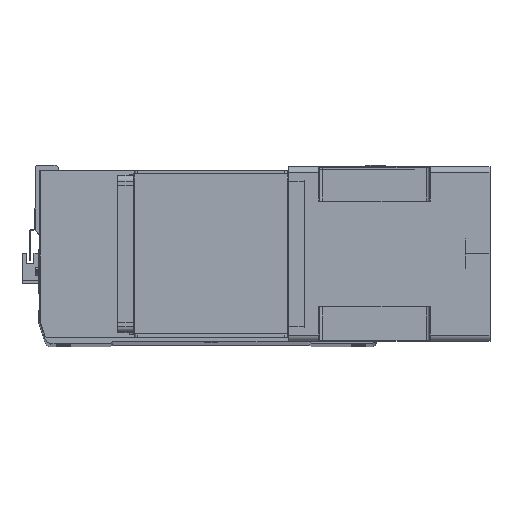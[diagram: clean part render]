
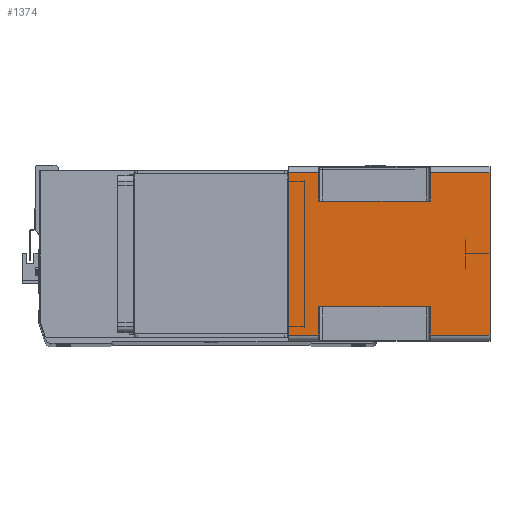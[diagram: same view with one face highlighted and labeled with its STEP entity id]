
A CAD part, top view. The second image highlights one B-rep face of the part: STEP entity #1374.
In plain terms, the highlighted planar face has unit normal (0, 0, 1) as drawn and (1, 0, 0) by its records, which use the part's own axes.
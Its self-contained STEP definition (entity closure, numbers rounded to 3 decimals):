
#219 = VECTOR ( 'NONE', #14504, 1000. ) ;
#514 = LINE ( 'NONE', #6479, #2427 ) ;
#554 = CARTESIAN_POINT ( 'NONE',  ( 71., 66., -115.5 ) ) ;
#568 = CARTESIAN_POINT ( 'NONE',  ( 71., -66., 0. ) ) ;
#640 = ORIENTED_EDGE ( 'NONE', *, *, #31211, .T. ) ;
#647 = VECTOR ( 'NONE', #27772, 1000. ) ;
#749 = DIRECTION ( 'NONE',  ( 1., 0., 0. ) ) ;
#1066 = CARTESIAN_POINT ( 'NONE',  ( 71., -66., -164. ) ) ;
#1374 = ADVANCED_FACE ( 'NONE', ( #1802 ), #30007, .T. ) ;
#1394 = EDGE_CURVE ( 'NONE', #24808, #25547, #7137, .T. ) ;
#1802 = FACE_OUTER_BOUND ( 'NONE', #11090, .T. ) ;
#2427 = VECTOR ( 'NONE', #11231, 1000. ) ;
#2580 = AXIS2_PLACEMENT_3D ( 'NONE', #1066, #749, #17775 ) ;
#2624 = ORIENTED_EDGE ( 'NONE', *, *, #27785, .F. ) ;
#2932 = DIRECTION ( 'NONE',  ( 0., 1., 0. ) ) ;
#3017 = CARTESIAN_POINT ( 'NONE',  ( 71., 43., -164. ) ) ;
#3168 = ORIENTED_EDGE ( 'NONE', *, *, #17672, .T. ) ;
#3541 = CARTESIAN_POINT ( 'NONE',  ( 71., -66., -164. ) ) ;
#3910 = DIRECTION ( 'NONE',  ( 0., -1., 0. ) ) ;
#4314 = CARTESIAN_POINT ( 'NONE',  ( 71., 43., -24.5 ) ) ;
#4448 = VECTOR ( 'NONE', #25032, 1000. ) ;
#4656 = DIRECTION ( 'NONE',  ( 0., -1., 0. ) ) ;
#4720 = CARTESIAN_POINT ( 'NONE',  ( 71., 66., -164. ) ) ;
#5953 = ORIENTED_EDGE ( 'NONE', *, *, #30903, .F. ) ;
#6312 = VECTOR ( 'NONE', #9574, 1000. ) ;
#6479 = CARTESIAN_POINT ( 'NONE',  ( 71., -66., -164. ) ) ;
#6521 = VECTOR ( 'NONE', #9499, 1000. ) ;
#6761 = VERTEX_POINT ( 'NONE', #16049 ) ;
#7137 = LINE ( 'NONE', #8075, #647 ) ;
#8075 = CARTESIAN_POINT ( 'NONE',  ( 71., 66., -164. ) ) ;
#8633 = VERTEX_POINT ( 'NONE', #4314 ) ;
#9272 = DIRECTION ( 'NONE',  ( 0., 1., 0. ) ) ;
#9398 = CARTESIAN_POINT ( 'NONE',  ( 71., -43., -164. ) ) ;
#9499 = DIRECTION ( 'NONE',  ( 0., 0., 1. ) ) ;
#9574 = DIRECTION ( 'NONE',  ( 0., 0., 1. ) ) ;
#9728 = CARTESIAN_POINT ( 'NONE',  ( 71., 66., 0. ) ) ;
#9805 = VERTEX_POINT ( 'NONE', #18623 ) ;
#10018 = VERTEX_POINT ( 'NONE', #9728 ) ;
#10353 = DIRECTION ( 'NONE',  ( 0., 1., 0. ) ) ;
#10623 = VECTOR ( 'NONE', #10353, 1000. ) ;
#10630 = LINE ( 'NONE', #12138, #24353 ) ;
#10813 = ORIENTED_EDGE ( 'NONE', *, *, #14328, .T. ) ;
#11090 = EDGE_LOOP ( 'NONE', ( #5953, #26440, #23556, #10813, #25097, #18504, #2624, #3168, #640, #16480, #11238, #15731 ) ) ;
#11231 = DIRECTION ( 'NONE',  ( 0., 0., 1. ) ) ;
#11238 = ORIENTED_EDGE ( 'NONE', *, *, #18830, .F. ) ;
#12138 = CARTESIAN_POINT ( 'NONE',  ( 71., -66., -24.5 ) ) ;
#12212 = CARTESIAN_POINT ( 'NONE',  ( 71., -66., -24.5 ) ) ;
#12379 = CARTESIAN_POINT ( 'NONE',  ( 71., 66., -164. ) ) ;
#12461 = EDGE_CURVE ( 'NONE', #18257, #9805, #13685, .T. ) ;
#12520 = VERTEX_POINT ( 'NONE', #20576 ) ;
#12763 = LINE ( 'NONE', #4720, #6312 ) ;
#13040 = VERTEX_POINT ( 'NONE', #25105 ) ;
#13294 = VERTEX_POINT ( 'NONE', #28834 ) ;
#13685 = LINE ( 'NONE', #15367, #10623 ) ;
#14270 = LINE ( 'NONE', #568, #24173 ) ;
#14328 = EDGE_CURVE ( 'NONE', #18099, #24808, #17341, .T. ) ;
#14480 = EDGE_CURVE ( 'NONE', #14725, #10018, #14270, .T. ) ;
#14504 = DIRECTION ( 'NONE',  ( 0., 1., 0. ) ) ;
#14619 = VECTOR ( 'NONE', #3910, 1000. ) ;
#14688 = VECTOR ( 'NONE', #4656, 1000. ) ;
#14725 = VERTEX_POINT ( 'NONE', #28439 ) ;
#15367 = CARTESIAN_POINT ( 'NONE',  ( 71., -43., -24.5 ) ) ;
#15731 = ORIENTED_EDGE ( 'NONE', *, *, #12461, .T. ) ;
#15780 = LINE ( 'NONE', #18461, #14619 ) ;
#16049 = CARTESIAN_POINT ( 'NONE',  ( 71., -43., -115.5 ) ) ;
#16480 = ORIENTED_EDGE ( 'NONE', *, *, #14480, .F. ) ;
#17341 = LINE ( 'NONE', #28995, #219 ) ;
#17672 = EDGE_CURVE ( 'NONE', #8633, #12520, #10630, .T. ) ;
#17775 = DIRECTION ( 'NONE',  ( 0., 1., 0. ) ) ;
#18099 = VERTEX_POINT ( 'NONE', #3541 ) ;
#18257 = VERTEX_POINT ( 'NONE', #12212 ) ;
#18461 = CARTESIAN_POINT ( 'NONE',  ( 71., 43., -115.5 ) ) ;
#18504 = ORIENTED_EDGE ( 'NONE', *, *, #29131, .T. ) ;
#18623 = CARTESIAN_POINT ( 'NONE',  ( 71., -43., -24.5 ) ) ;
#18830 = EDGE_CURVE ( 'NONE', #18257, #14725, #18904, .T. ) ;
#18904 = LINE ( 'NONE', #22357, #4448 ) ;
#20576 = CARTESIAN_POINT ( 'NONE',  ( 71., 66., -24.5 ) ) ;
#21753 = CARTESIAN_POINT ( 'NONE',  ( 71., -66., -115.5 ) ) ;
#22357 = CARTESIAN_POINT ( 'NONE',  ( 71., -66., -164. ) ) ;
#23396 = EDGE_CURVE ( 'NONE', #6761, #13040, #26502, .T. ) ;
#23556 = ORIENTED_EDGE ( 'NONE', *, *, #24058, .F. ) ;
#24058 = EDGE_CURVE ( 'NONE', #18099, #13040, #514, .T. ) ;
#24173 = VECTOR ( 'NONE', #2932, 1000. ) ;
#24353 = VECTOR ( 'NONE', #9272, 1000. ) ;
#24808 = VERTEX_POINT ( 'NONE', #12379 ) ;
#25032 = DIRECTION ( 'NONE',  ( 0., 0., 1. ) ) ;
#25097 = ORIENTED_EDGE ( 'NONE', *, *, #1394, .T. ) ;
#25105 = CARTESIAN_POINT ( 'NONE',  ( 71., -66., -115.5 ) ) ;
#25547 = VERTEX_POINT ( 'NONE', #554 ) ;
#26440 = ORIENTED_EDGE ( 'NONE', *, *, #23396, .T. ) ;
#26502 = LINE ( 'NONE', #21753, #14688 ) ;
#27237 = DIRECTION ( 'NONE',  ( 0., 0., -1. ) ) ;
#27772 = DIRECTION ( 'NONE',  ( 0., 0., 1. ) ) ;
#27785 = EDGE_CURVE ( 'NONE', #8633, #13294, #30434, .T. ) ;
#28439 = CARTESIAN_POINT ( 'NONE',  ( 71., -66., 0. ) ) ;
#28834 = CARTESIAN_POINT ( 'NONE',  ( 71., 43., -115.5 ) ) ;
#28995 = CARTESIAN_POINT ( 'NONE',  ( 71., -66., -164. ) ) ;
#29131 = EDGE_CURVE ( 'NONE', #25547, #13294, #15780, .T. ) ;
#29667 = VECTOR ( 'NONE', #27237, 1000. ) ;
#29740 = LINE ( 'NONE', #9398, #6521 ) ;
#30007 = PLANE ( 'NONE',  #2580 ) ;
#30434 = LINE ( 'NONE', #3017, #29667 ) ;
#30903 = EDGE_CURVE ( 'NONE', #6761, #9805, #29740, .T. ) ;
#31211 = EDGE_CURVE ( 'NONE', #12520, #10018, #12763, .T. ) ;
